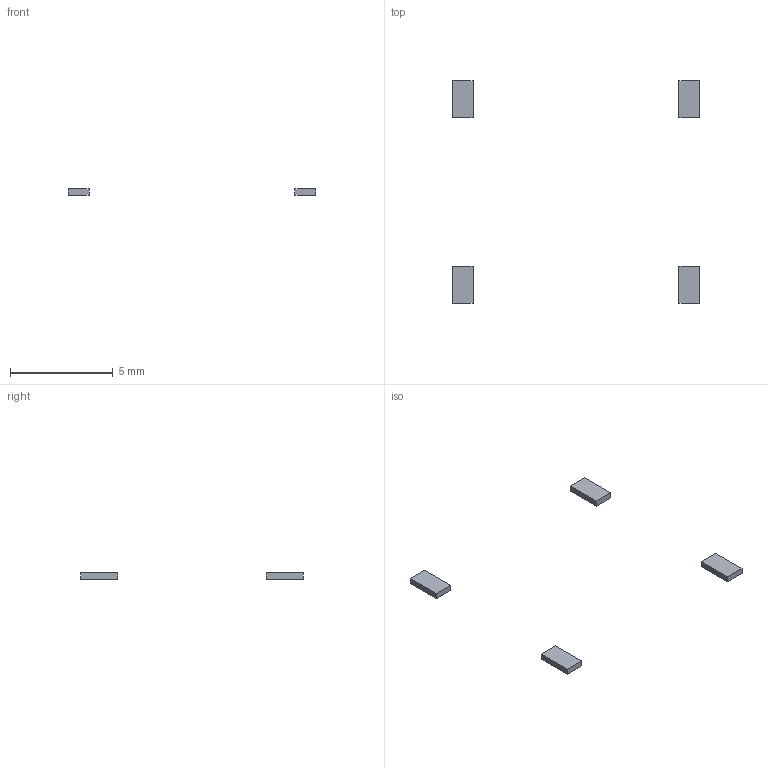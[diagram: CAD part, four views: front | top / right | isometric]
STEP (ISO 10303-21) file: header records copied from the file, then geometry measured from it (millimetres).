
FILE_DESCRIPTION(('Open CASCADE Model'),'2;1');
FILE_NAME('Play_foam_reference','2026-09-21T22:33:41',('Author'),( 'Open CASCADE'),'Open CASCADE STEP processor 7.9','build123d', 'Unknown');
FILE_SCHEMA(('AUTOMOTIVE_DESIGN { 1 0 10303 214 1 1 1 1 }'));
Length unit declared in the file: millimetre
Products named in the file (2): Play_foam_reference
Assembly tree (1 placements, depth 2):
  Play_foam_reference
    Play_foam_reference
Bounding box: 12 x 10.8 x 0.3 mm (x, y, z)
Volume: 2.2 mm3; surface area: 21.1 mm2
Topology: 4 solids, 4 shells, 24 faces, 48 edges, 32 vertices
Faces by surface type: plane 24
Entity records: 712 total; most frequent: CARTESIAN_POINT 106, DIRECTION 100, ORIENTED_EDGE 96, EDGE_CURVE 48, LINE 48, VECTOR 48, VERTEX_POINT 32, AXIS2_PLACEMENT_3D 26
